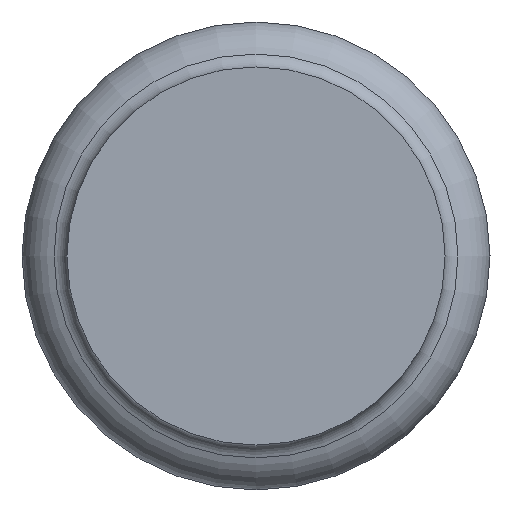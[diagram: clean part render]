
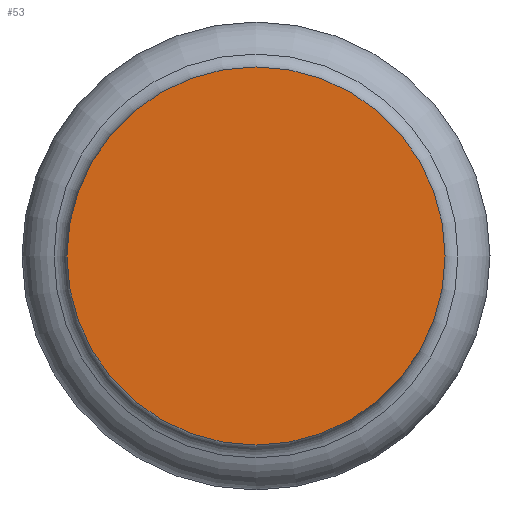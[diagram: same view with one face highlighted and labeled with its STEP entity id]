
A CAD part, front view. The second image highlights one B-rep face of the part: STEP entity #53.
In plain terms, the highlighted planar face has unit normal (0, -1, 0).
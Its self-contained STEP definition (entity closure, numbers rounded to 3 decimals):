
#53=ADVANCED_FACE('',(#64),#66,.T.);
#64=FACE_BOUND('',#65,.T.);
#65=EDGE_LOOP('',(#159));
#66=PLANE('',#67);
#67=AXIS2_PLACEMENT_3D('',#68,#69,#70);
#68=CARTESIAN_POINT('',(0.,-42.,0.));
#69=DIRECTION('',(0.,-1.,0.));
#70=DIRECTION('',(0.,0.,1.));
#159=ORIENTED_EDGE('',*,*,#179,.F.);
#179=EDGE_CURVE('',#189,#189,#190,.T.);
#189=VERTEX_POINT('',#209);
#190=CIRCLE('',#210,10.5);
#209=CARTESIAN_POINT('',(0.,-42.,10.5));
#210=AXIS2_PLACEMENT_3D('',#211,#212,#213);
#211=CARTESIAN_POINT('',(0.,-42.,0.));
#212=DIRECTION('',(0.,1.,0.));
#213=DIRECTION('',(0.,0.,1.));
